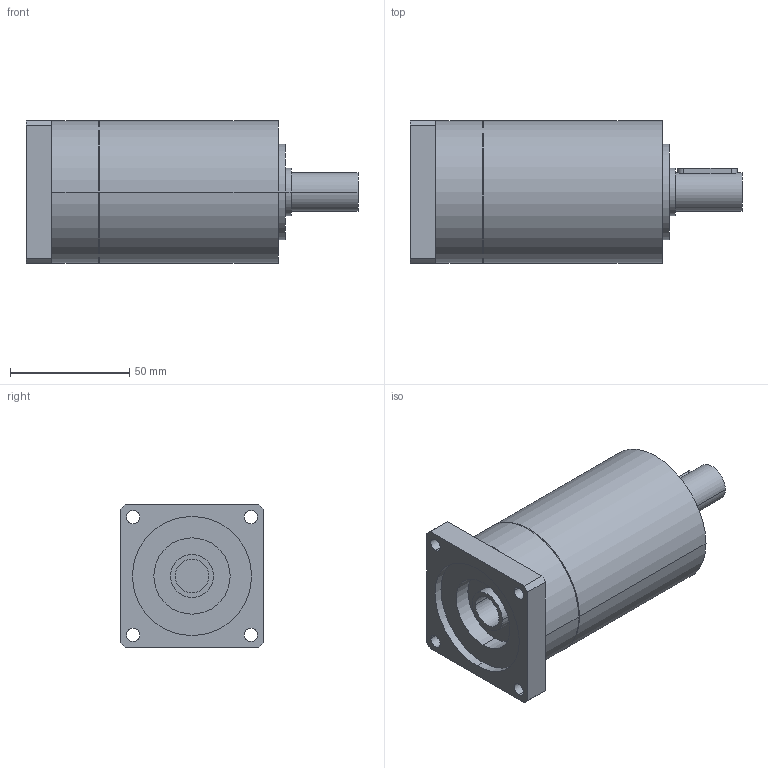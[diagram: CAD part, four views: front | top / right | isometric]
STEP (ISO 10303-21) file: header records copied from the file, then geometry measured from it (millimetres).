
FILE_DESCRIPTION(('CoCreate Modeling STEP Export'),'2;1');
FILE_NAME('GPR75_ig-9-12-16-20-24-30-36_16_B14_14_P20.stp','2014-08-25T16:03:31',(''),(''),'CoCreate Modeling STEP processor for AP214 (Solid Model)','CoCreate Modeling 16.00C 25-Feb-2009 (C) Parametric Technology GmbH','');
FILE_SCHEMA(('AUTOMOTIVE_DESIGN { 1 0 10303 214 1 1 1 1 }'));
Length unit declared in the file: millimetre
Products named in the file (2): GPR75_ig-9-12-16-20-24-30-36_16_B14_14_P20
Assembly tree (1 placements, depth 2):
  GPR75_ig-9-12-16-20-24-30-36_16_B14_14_P20
    GPR75_ig-9-12-16-20-24-30-36_16_B14_14_P20
Bounding box: 139.4 x 60 x 60 mm (x, y, z)
Volume: 300160 mm3; surface area: 33963.2 mm2
Topology: 1 solids, 1 shells, 70 faces, 188 edges, 132 vertices
Faces by surface type: cylinder 42, plane 22, cone 6
Entity records: 2023 total; most frequent: ORIENTED_EDGE 372, CARTESIAN_POINT 370, DIRECTION 270, EDGE_CURVE 186, VERTEX_POINT 132, AXIS2_PLACEMENT_3D 102, EDGE_LOOP 92, FACE_OUTER_BOUND 70
